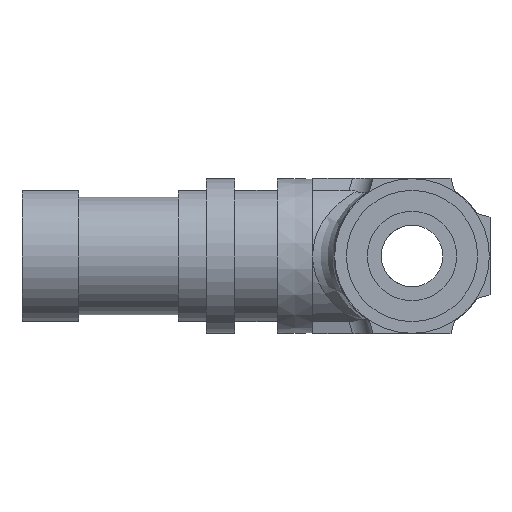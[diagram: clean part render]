
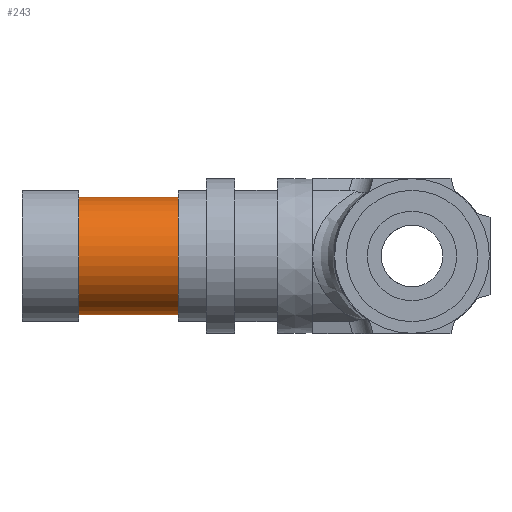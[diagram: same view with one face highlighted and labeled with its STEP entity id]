
A CAD part, left-side view. The second image highlights one B-rep face of the part: STEP entity #243.
In plain terms, the highlighted cylindrical face has radius 4.15 mm (diameter 8.3 mm), a full revolution.
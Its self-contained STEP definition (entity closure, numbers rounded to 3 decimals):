
#218 = EDGE_CURVE ( 'NONE', #1856, #1856, #304, .T. ) ;
#220 = EDGE_CURVE ( 'NONE', #1860, #1860, #306, .T. ) ;
#243 = ADVANCED_FACE ( 'NONE', ( #2149, #2147 ), #2154, .T. ) ;
#304 = CIRCLE ( 'NONE', #2073, 4.15 ) ;
#306 = CIRCLE ( 'NONE', #2075, 4.15 ) ;
#514 = EDGE_LOOP ( 'NONE', ( #634 ) ) ;
#515 = EDGE_LOOP ( 'NONE', ( #639 ) ) ;
#634 = ORIENTED_EDGE ( 'NONE', *, *, #220, .T. ) ;
#639 = ORIENTED_EDGE ( 'NONE', *, *, #218, .F. ) ;
#1456 = CARTESIAN_POINT ( 'NONE',  ( 0., 22.592, 0. ) ) ;
#1457 = DIRECTION ( 'NONE',  ( 0., 1., 0. ) ) ;
#1458 = DIRECTION ( 'NONE',  ( 0., 0., 1. ) ) ;
#1462 = CARTESIAN_POINT ( 'NONE',  ( 0., 15.592, 0. ) ) ;
#1463 = DIRECTION ( 'NONE',  ( 0., 1., 0. ) ) ;
#1464 = DIRECTION ( 'NONE',  ( 0., 0., 1. ) ) ;
#1533 = CARTESIAN_POINT ( 'NONE',  ( 0., 14.892, 0. ) ) ;
#1534 = DIRECTION ( 'NONE',  ( 0., 1., 0. ) ) ;
#1535 = DIRECTION ( 'NONE',  ( 0., 0., 1. ) ) ;
#1856 = VERTEX_POINT ( 'NONE', #1857 ) ;
#1857 = CARTESIAN_POINT ( 'NONE',  ( 0., 22.592, 4.15 ) ) ;
#1860 = VERTEX_POINT ( 'NONE', #1861 ) ;
#1861 = CARTESIAN_POINT ( 'NONE',  ( 0., 15.592, 4.15 ) ) ;
#2073 = AXIS2_PLACEMENT_3D ( 'NONE', #1456, #1457, #1458 ) ;
#2075 = AXIS2_PLACEMENT_3D ( 'NONE', #1462, #1463, #1464 ) ;
#2147 = FACE_OUTER_BOUND ( 'NONE', #515, .T. ) ;
#2149 = FACE_OUTER_BOUND ( 'NONE', #514, .T. ) ;
#2153 = AXIS2_PLACEMENT_3D ( 'NONE', #1533, #1534, #1535 ) ;
#2154 = CYLINDRICAL_SURFACE ( 'NONE', #2153, 4.15 ) ;
